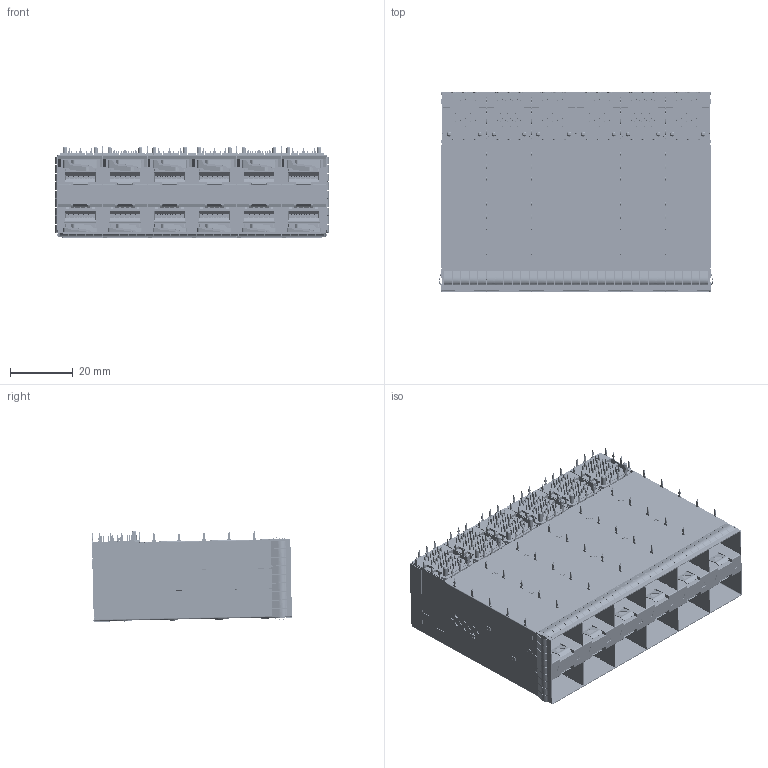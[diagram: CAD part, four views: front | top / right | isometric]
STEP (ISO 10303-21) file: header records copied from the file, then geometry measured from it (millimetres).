
FILE_DESCRIPTION (( 'STEP AP203' ), '1' );
FILE_NAME ('14200225-3D-CZT-10732126-465095_1.STEP', '2023-05-30T03:00:09', ( '' ), ( '' ), 'SwSTEP 2.0', 'SolidWorks 2016', '' );
FILE_SCHEMA (( 'CONFIG_CONTROL_DESIGN' ));
Products named in the file (1): 14200225-3D-CZT-10732126-465095_1
Bounding box: 87.31 x 63.74 x 29.41 mm (x, y, z)
Surface area: 69175.4 mm2 (no closed solid volume)
Topology: 0 solids, 1 shells, 13910 faces, 41833 edges, 28079 vertices
Faces by surface type: plane 7489, cylinder 6225, bspline 160, cone 36
Entity records: 507301 total; most frequent: CARTESIAN_POINT 170227, ORIENTED_EDGE 83642, DIRECTION 48971, EDGE_CURVE 41833, VERTEX_POINT 28079, B_SPLINE_CURVE_WITH_KNOTS 21049, LINE 20091, VECTOR 20091
